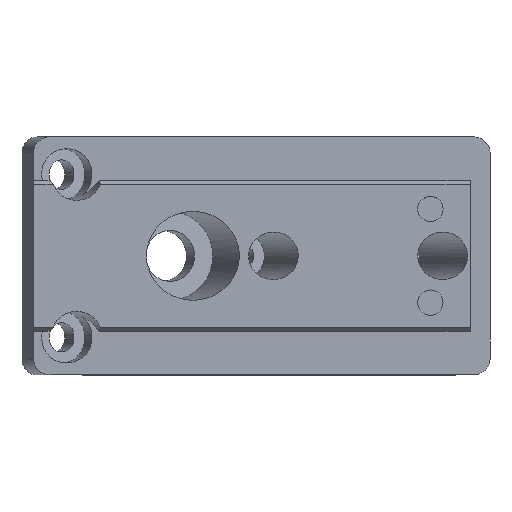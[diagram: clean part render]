
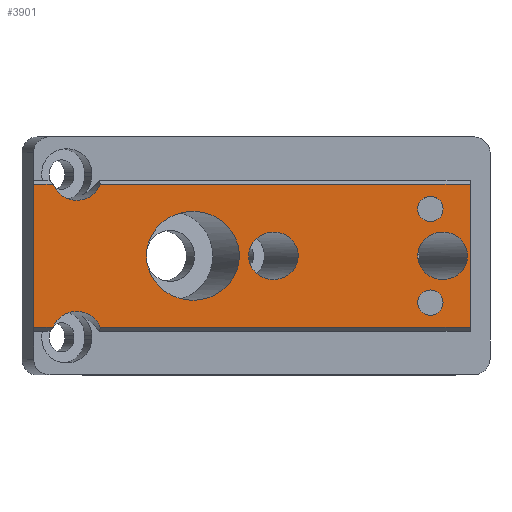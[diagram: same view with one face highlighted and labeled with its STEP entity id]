
A CAD part, top view. The second image highlights one B-rep face of the part: STEP entity #3901.
In plain terms, the highlighted planar face has unit normal (0, 0, 1).
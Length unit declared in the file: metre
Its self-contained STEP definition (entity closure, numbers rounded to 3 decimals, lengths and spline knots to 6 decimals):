
#102=ELLIPSE('',#4153,0.005856,0.0056);
#103=ELLIPSE('',#4154,0.003137,0.003);
#104=ELLIPSE('',#4155,0.003137,0.003);
#105=ELLIPSE('',#4158,0.003137,0.003);
#106=ELLIPSE('',#4159,0.003137,0.003);
#180=CIRCLE('',#4156,0.0016);
#181=CIRCLE('',#4157,0.0016);
#263=ORIENTED_EDGE('',*,*,#1425,.T.);
#264=ORIENTED_EDGE('',*,*,#1426,.T.);
#265=ORIENTED_EDGE('',*,*,#1427,.T.);
#266=ORIENTED_EDGE('',*,*,#1428,.T.);
#267=ORIENTED_EDGE('',*,*,#1429,.T.);
#268=ORIENTED_EDGE('',*,*,#1430,.F.);
#269=ORIENTED_EDGE('',*,*,#1431,.T.);
#270=ORIENTED_EDGE('',*,*,#1432,.F.);
#271=ORIENTED_EDGE('',*,*,#1433,.T.);
#272=ORIENTED_EDGE('',*,*,#1434,.F.);
#273=ORIENTED_EDGE('',*,*,#1435,.T.);
#274=ORIENTED_EDGE('',*,*,#1436,.T.);
#275=ORIENTED_EDGE('',*,*,#1437,.T.);
#1425=EDGE_CURVE('',#2006,#2006,#102,.T.);
#1426=EDGE_CURVE('',#2007,#2007,#103,.T.);
#1427=EDGE_CURVE('',#2008,#2008,#104,.T.);
#1428=EDGE_CURVE('',#2009,#2009,#180,.T.);
#1429=EDGE_CURVE('',#2010,#2010,#181,.T.);
#1430=EDGE_CURVE('',#2011,#2012,#105,.F.);
#1431=EDGE_CURVE('',#2011,#2013,#2379,.T.);
#1432=EDGE_CURVE('',#2014,#2013,#2380,.T.);
#1433=EDGE_CURVE('',#2014,#2015,#2381,.T.);
#1434=EDGE_CURVE('',#2016,#2015,#106,.F.);
#1435=EDGE_CURVE('',#2016,#2017,#2382,.T.);
#1436=EDGE_CURVE('',#2017,#2018,#2383,.T.);
#1437=EDGE_CURVE('',#2018,#2012,#2384,.T.);
#2006=VERTEX_POINT('',#5476);
#2007=VERTEX_POINT('',#5478);
#2008=VERTEX_POINT('',#5480);
#2009=VERTEX_POINT('',#5482);
#2010=VERTEX_POINT('',#5484);
#2011=VERTEX_POINT('',#5486);
#2012=VERTEX_POINT('',#5487);
#2013=VERTEX_POINT('',#5489);
#2014=VERTEX_POINT('',#5491);
#2015=VERTEX_POINT('',#5493);
#2016=VERTEX_POINT('',#5495);
#2017=VERTEX_POINT('',#5497);
#2018=VERTEX_POINT('',#5499);
#2379=LINE('',#5488,#2816);
#2380=LINE('',#5490,#2817);
#2381=LINE('',#5492,#2818);
#2382=LINE('',#5496,#2819);
#2383=LINE('',#5498,#2820);
#2384=LINE('',#5500,#2821);
#2816=VECTOR('',#4485,1.);
#2817=VECTOR('',#4486,1.);
#2818=VECTOR('',#4487,1.);
#2819=VECTOR('',#4490,1.);
#2820=VECTOR('',#4491,1.);
#2821=VECTOR('',#4492,1.);
#3240=EDGE_LOOP('',(#263));
#3241=EDGE_LOOP('',(#264));
#3242=EDGE_LOOP('',(#265));
#3243=EDGE_LOOP('',(#266));
#3244=EDGE_LOOP('',(#267));
#3245=EDGE_LOOP('',(#268,#269,#270,#271,#272,#273,#274,#275));
#3497=FACE_BOUND('',#3240,.T.);
#3498=FACE_BOUND('',#3241,.T.);
#3499=FACE_BOUND('',#3242,.T.);
#3500=FACE_BOUND('',#3243,.T.);
#3501=FACE_BOUND('',#3244,.T.);
#3502=FACE_BOUND('',#3245,.T.);
#3746=PLANE('',#4152);
#3901=ADVANCED_FACE('',(#3497,#3498,#3499,#3500,#3501,#3502),#3746,.F.);
#4152=AXIS2_PLACEMENT_3D('',#5474,#4471,#4472);
#4153=AXIS2_PLACEMENT_3D('',#5475,#4473,#4474);
#4154=AXIS2_PLACEMENT_3D('',#5477,#4475,#4476);
#4155=AXIS2_PLACEMENT_3D('',#5479,#4477,#4478);
#4156=AXIS2_PLACEMENT_3D('',#5481,#4479,#4480);
#4157=AXIS2_PLACEMENT_3D('',#5483,#4481,#4482);
#4158=AXIS2_PLACEMENT_3D('',#5485,#4483,#4484);
#4159=AXIS2_PLACEMENT_3D('',#5494,#4488,#4489);
#4471=DIRECTION('',(0.,0.,-1.));
#4472=DIRECTION('',(-1.,0.,0.));
#4473=DIRECTION('',(0.,0.,-1.));
#4474=DIRECTION('',(-1.,0.,0.));
#4475=DIRECTION('',(0.,0.,-1.));
#4476=DIRECTION('',(-1.,0.,0.));
#4477=DIRECTION('',(0.,0.,-1.));
#4478=DIRECTION('',(-1.,0.,0.));
#4479=DIRECTION('',(0.,0.,-1.));
#4480=DIRECTION('',(-1.,0.,0.));
#4481=DIRECTION('',(0.,0.,-1.));
#4482=DIRECTION('',(-1.,0.,0.));
#4483=DIRECTION('',(0.,0.,-1.));
#4484=DIRECTION('',(-1.,0.,0.));
#4485=DIRECTION('',(1.,0.,0.));
#4486=DIRECTION('',(0.,-1.,0.));
#4487=DIRECTION('',(-1.,0.,0.));
#4488=DIRECTION('',(0.,0.,-1.));
#4489=DIRECTION('',(-1.,0.,0.));
#4490=DIRECTION('',(-1.,0.,0.));
#4491=DIRECTION('',(0.,-1.,0.));
#4492=DIRECTION('',(1.,0.,0.));
#5474=CARTESIAN_POINT('',(0.055,0.,0.0041));
#5475=CARTESIAN_POINT('',(0.020076,0.,0.0041));
#5476=CARTESIAN_POINT('',(0.01422,0.,0.0041));
#5477=CARTESIAN_POINT('',(0.051551,0.,0.0041));
#5478=CARTESIAN_POINT('',(0.048414,0.,0.0041));
#5479=CARTESIAN_POINT('',(0.030219,0.,0.0041));
#5480=CARTESIAN_POINT('',(0.027082,0.,0.0041));
#5481=CARTESIAN_POINT('',(0.05,0.0059,0.0041));
#5482=CARTESIAN_POINT('',(0.0484,0.0059,0.0041));
#5483=CARTESIAN_POINT('',(0.05,-0.0059,0.0041));
#5484=CARTESIAN_POINT('',(0.0484,-0.0059,0.0041));
#5485=CARTESIAN_POINT('',(0.005436,-0.01,0.0041));
#5486=CARTESIAN_POINT('',(0.008396,-0.009004,0.0041));
#5487=CARTESIAN_POINT('',(0.002477,-0.009004,0.0041));
#5488=CARTESIAN_POINT('',(0.055,-0.009004,0.0041));
#5489=CARTESIAN_POINT('',(0.055,-0.009004,0.0041));
#5490=CARTESIAN_POINT('',(0.055,0.,0.0041));
#5491=CARTESIAN_POINT('',(0.055,0.009004,0.0041));
#5492=CARTESIAN_POINT('',(0.,0.009004,0.0041));
#5493=CARTESIAN_POINT('',(0.008396,0.009004,0.0041));
#5494=CARTESIAN_POINT('',(0.005436,0.01,0.0041));
#5495=CARTESIAN_POINT('',(0.002477,0.009004,0.0041));
#5496=CARTESIAN_POINT('',(0.,0.009004,0.0041));
#5497=CARTESIAN_POINT('',(0.,0.009004,0.0041));
#5498=CARTESIAN_POINT('',(0.,0.,0.0041));
#5499=CARTESIAN_POINT('',(0.,-0.009004,0.0041));
#5500=CARTESIAN_POINT('',(0.055,-0.009004,0.0041));
